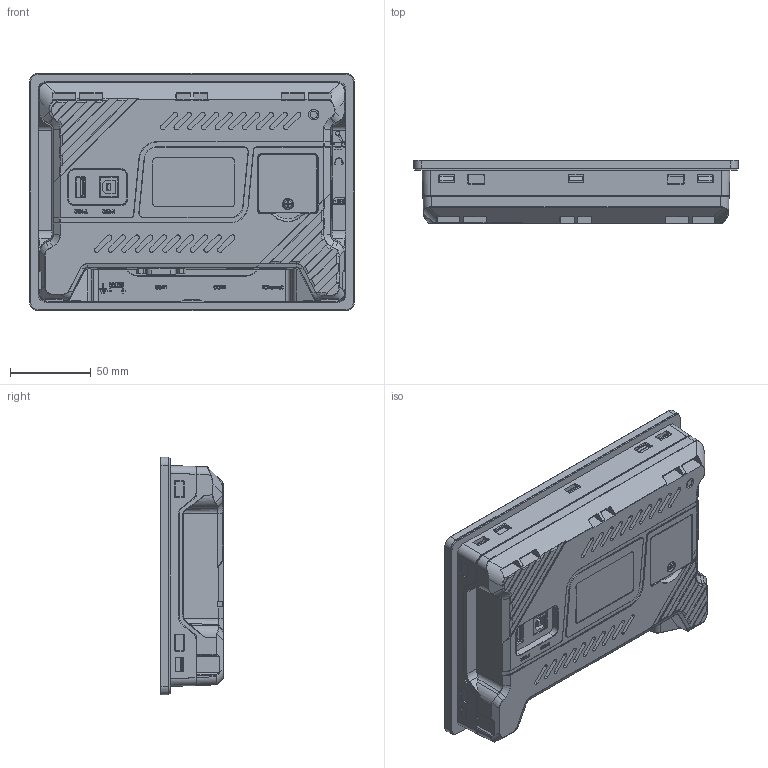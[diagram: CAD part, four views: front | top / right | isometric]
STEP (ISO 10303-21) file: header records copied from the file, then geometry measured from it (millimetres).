
FILE_DESCRIPTION((''),'2;1');
FILE_NAME('PI8070IG-IND-N_ASM-240318_ASM','2024-04-07T14:59:17',('Administrator'),(''),'CREO PARAMETRIC BY PTC INC, 2018050','CREO PARAMETRIC BY PTC INC, 2018050','');
FILE_SCHEMA(('CONFIG_CONTROL_DESIGN'));
Products named in the file (3): PRT0001; M3-10-PM_6; PI8070IG-IND-N_ASM-240318_ASM
Assembly tree (2 placements, depth 2):
  PI8070IG-IND-N_ASM-240318_ASM
    PRT0001
    M3-10-PM_6
Bounding box: 201.2 x 39 x 147.2 mm (x, y, z)
Volume: 887906.6 mm3; surface area: 100911.4 mm2
Topology: 3 solids, 3 shells, 2692 faces, 7288 edges, 4763 vertices
Faces by surface type: plane 1482, cylinder 590, extrusion 343, bspline 140, cone 68, torus 61, sphere 8
Entity records: 97090 total; most frequent: CARTESIAN_POINT 31780, ORIENTED_EDGE 14562, DIRECTION 11587, EDGE_CURVE 7281, VECTOR 5065, VERTEX_POINT 4763, LINE 4722, AXIS2_PLACEMENT_3D 3261
